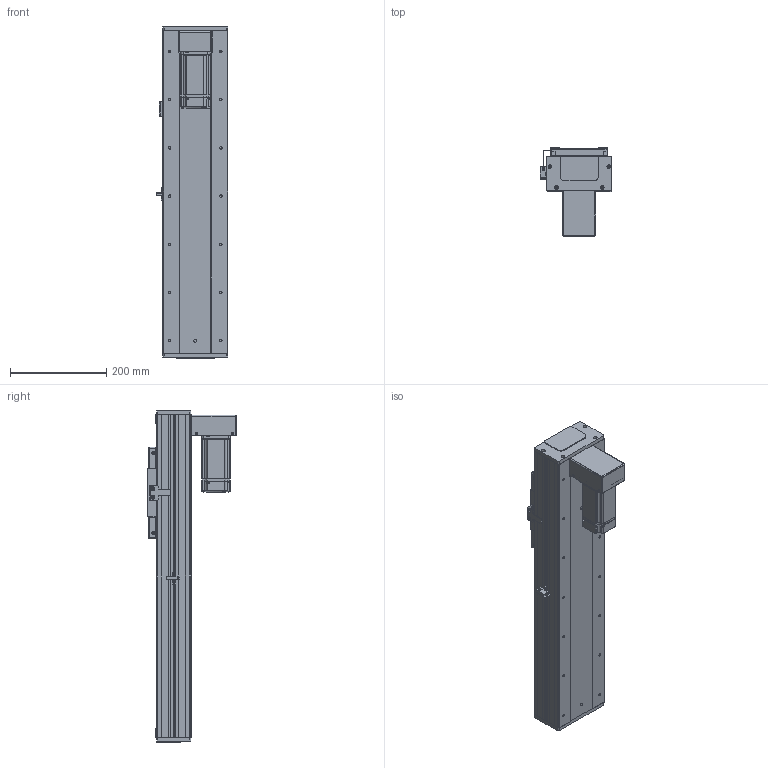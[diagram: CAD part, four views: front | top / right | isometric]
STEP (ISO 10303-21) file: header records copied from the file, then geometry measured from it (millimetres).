
FILE_DESCRIPTION (( 'STEP AP203' ), '1' );
FILE_NAME ('RY140F-L2020-300-BK.SLDASM_400.step', '2021-03-02T08:26:35', ( '盈信电脑' ), ( '东莞市道滘镇水果街19号' ), 'SwSTEP 2.0', 'SolidWorks 2012', '' );
FILE_SCHEMA (( 'CONFIG_CONTROL_DESIGN' ));
Products named in the file (21): RY140F-L2020-300-BK.SLDASM_400; RY140F-詩湍嘐隅輸; RY140F-直连型材铝滑块(16丝杆); 滅袉蝶18-10; RY140F-狟殏萇儂啣(400W M5); RY140F-詩湍揤え; 侐源滅袉蝶; RY140F-狟殏萇儂欶(400W); 侂狟400W侜督萇儂; 15; 覜茼ん672; RY140F-672覜茼んえ; 藻笠沭; RY140F-詩湍幗謫粣; RY100F-詩湍揤踡謫; RY140F-后盖板(铝件）; RY140F-300-BK倰第奻裔啣_400; RY140F-滅鳥奻裔; RY140F-直连型材铝滑块连接座; RY140F-300-BK蛌殏詩湍_400; RY140F-300-BK倰第菁釱_400
Assembly tree (26 placements, depth 3):
  RY140F-L2020-300-BK.SLDASM_400
    RY140F-300-BK倰第菁釱_400
    RY140F-300-BK倰第奻裔啣_400  x2
    RY140F-300-BK蛌殏詩湍_400
    RY140F-直连型材铝滑块连接座
    RY140F-滅鳥奻裔
    RY140F-詩湍幗謫粣
    藻笠沭  x2
    RY100F-詩湍揤踡謫
    RY140F-后盖板(铝件）  x2
    侂狟400W侜督萇儂
      15
    覜茼ん672
    RY140F-672覜茼んえ
    RY140F-詩湍揤え  x2
    侐源滅袉蝶  x2
    RY140F-狟殏萇儂啣(400W M5)
    RY140F-狟殏萇儂欶(400W)
    RY140F-詩湍嘐隅輸
    滅袉蝶18-10  x2
    RY140F-直连型材铝滑块(16丝杆)
Bounding box: 148.7 x 184.5 x 689 mm (x, y, z)
Volume: 3039553.4 mm3; surface area: 1069073 mm2
Topology: 25 solids, 25 shells, 1968 faces, 5392 edges, 3452 vertices
Faces by surface type: cylinder 947, plane 811, cone 184, bspline 22, torus 4
Entity records: 62128 total; most frequent: CARTESIAN_POINT 13131, DIRECTION 9859, ORIENTED_EDGE 9644, EDGE_CURVE 4822, AXIS2_PLACEMENT_3D 3508, VERTEX_POINT 3156, LINE 2843, VECTOR 2843
